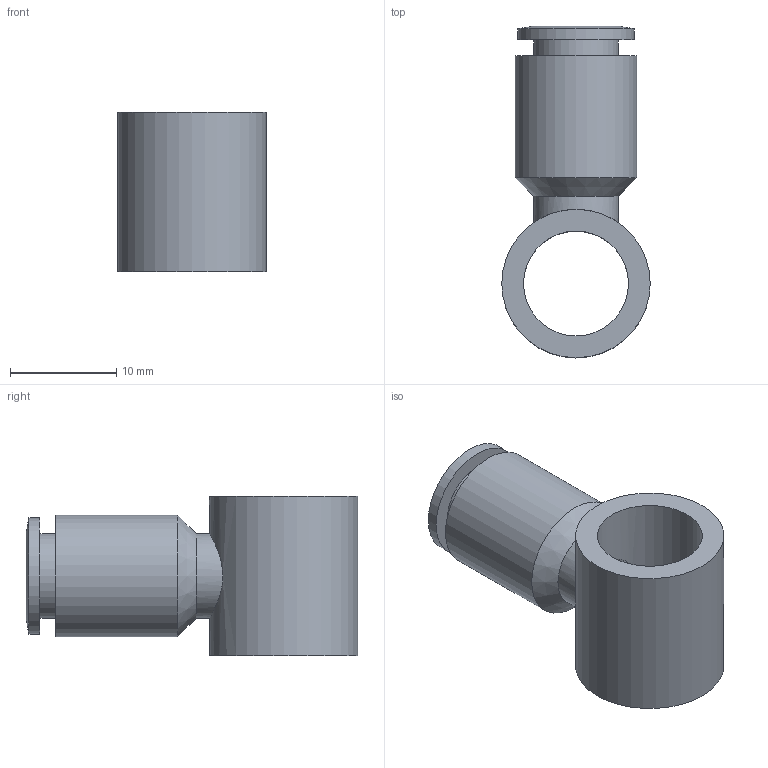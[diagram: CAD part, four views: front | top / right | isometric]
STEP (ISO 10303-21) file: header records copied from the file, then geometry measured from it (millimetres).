
FILE_DESCRIPTION((''),'2;1');
FILE_NAME('C:\Documents and Settings\rivolro1\Documenti\copia di Raccordi\PLASTICA\T13XXXX\T130618.stp','2007-10-30T17:37:08',('Rivolro1'),(''),'Autodesk Inventor 2008','Autodesk Inventor 2008','');
FILE_SCHEMA(('AUTOMOTIVE_DESIGN { 1 0 10303 214 1 1 1 1 }'));
Length unit declared in the file: millimetre
Products named in the file (1): T130618
Bounding box: 14 x 31.3 x 15 mm (x, y, z)
Volume: 2199.3 mm3; surface area: 2372.2 mm2
Topology: 1 solids, 1 shells, 16 faces, 27 edges, 17 vertices
Faces by surface type: cylinder 7, plane 5, bspline 2, cone 2
Full cylindrical faces by diameter (mm): 4.2 x1, 8 x2, 9.9 x1, 11 x1, 11.5 x1, 14 x1
Entity records: 526 total; most frequent: CARTESIAN_POINT 206, DIRECTION 60, ORIENTED_EDGE 34, EDGE_LOOP 34, AXIS2_PLACEMENT_3D 30, FACE_BOUND 18, VERTEX_POINT 17, EDGE_CURVE 17
